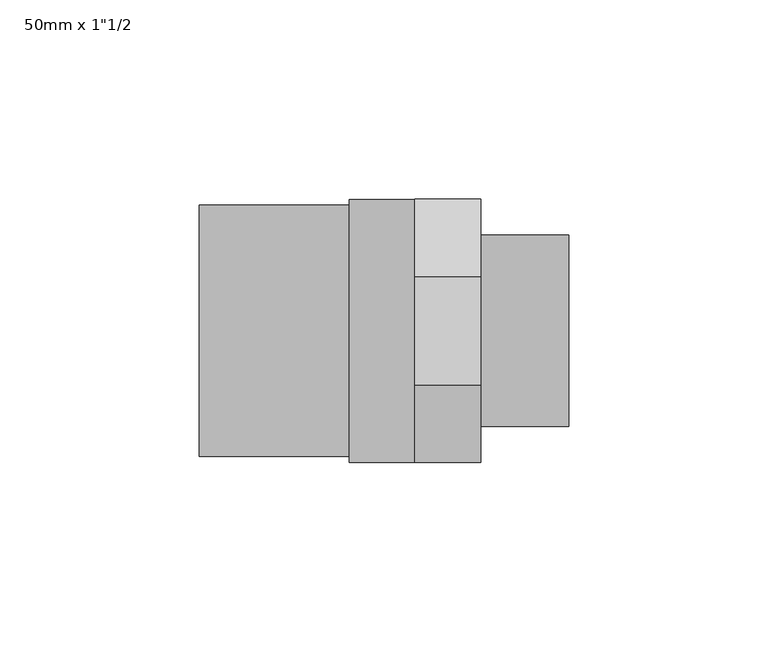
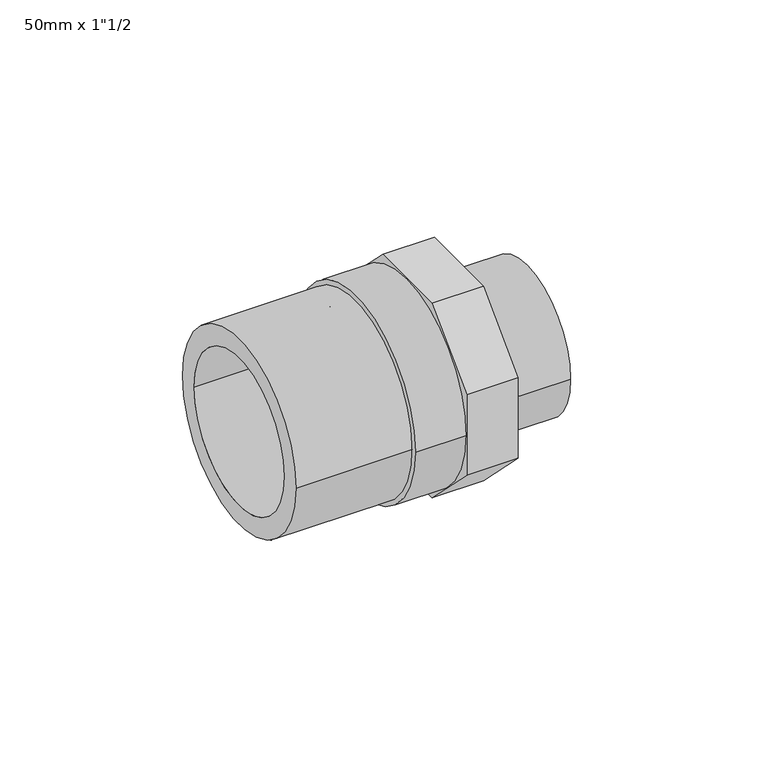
"""IFC4 building model written with IfcOpenShell, lengths in millimetres: pipe fitting geometry."""

from ifc_helpers import new_model, si_unit, point, frame, origin, origin_2d, place, context, project, spatial, polyline, circle_curve, trimmed, segment, composite_curve, outline, extrude, source, transform, mapped, element, save


def pipe_fitting_18db0e3b(model_context):
    return source(origin(), model_context, "Body", "SweptSolid", [
        extrude(outline(composite_curve([segment(trimmed(circle_curve(origin_2d(), 24.0), [point((-24.0, 0.0))], [point((24.0, 0.0))], False, "CARTESIAN"), True, "CONTINUOUS"), segment(trimmed(circle_curve(origin_2d(), 24.0), [point((24.0, 0.0))], [point((-24.0, 0.0))], False, "CARTESIAN"), True, "CONTINUOUS")], self_intersect=False), holes=[composite_curve([segment(trimmed(circle_curve(origin_2d(), 19.5), [point((-19.5, 0.0))], [point((19.5, 0.0))], True, "CARTESIAN"), True, "CONTINUOUS"), segment(trimmed(circle_curve(origin_2d(), 19.5), [point((19.5, 0.0))], [point((-19.5, 0.0))], True, "CARTESIAN"), True, "CONTINUOUS")], self_intersect=False)]), frame((24.25, 0.0, 0.0), z_axis=(1.0, 0.0, 0.0), x_axis=(0.0, 1.0, 0.0)), (0.0, 0.0, 1.0), 22.0),
        extrude(outline(polyline([(13.6690476, 33.0), (33.0, 13.6690476), (33.0, -13.6690476), (13.6690476, -33.0), (-13.6690476, -33.0), (-33.0, -13.6690476), (-33.0, 13.6690476), (-13.6690476, 33.0), (13.6690476, 33.0)]), holes=[composite_curve([segment(trimmed(circle_curve(origin_2d(), 19.5), [point((-19.5, 0.0))], [point((19.5, 0.0))], True, "CARTESIAN"), True, "CONTINUOUS"), segment(trimmed(circle_curve(origin_2d(), 19.5), [point((19.5, 0.0))], [point((-19.5, 0.0))], True, "CARTESIAN"), True, "CONTINUOUS")], self_intersect=False)]), frame((7.75, 0.0, 0.0), z_axis=(1.0, 0.0, 0.0), x_axis=(0.0, 1.0, 0.0)), (0.0, 0.0, 1.0), 16.5),
        extrude(outline(composite_curve([segment(trimmed(circle_curve(origin_2d(), 33.0), [point((-33.0, 0.0))], [point((33.0, 0.0))], False, "CARTESIAN"), True, "CONTINUOUS"), segment(trimmed(circle_curve(origin_2d(), 33.0), [point((33.0, 0.0))], [point((-33.0, 0.0))], False, "CARTESIAN"), True, "CONTINUOUS")], self_intersect=False), holes=[composite_curve([segment(trimmed(circle_curve(origin_2d(), 19.5), [point((-19.5, 0.0))], [point((19.5, 0.0))], True, "CARTESIAN"), True, "CONTINUOUS"), segment(trimmed(circle_curve(origin_2d(), 19.5), [point((19.5, 0.0))], [point((-19.5, 0.0))], True, "CARTESIAN"), True, "CONTINUOUS")], self_intersect=False)]), frame((-8.75, 0.0, 0.0), z_axis=(1.0, 0.0, 0.0), x_axis=(0.0, 1.0, 0.0)), (0.0, 0.0, 1.0), 16.5),
        extrude(outline(composite_curve([segment(trimmed(circle_curve(origin_2d(), 31.5), [point((-31.5, 0.0))], [point((31.5, 0.0))], False, "CARTESIAN"), True, "CONTINUOUS"), segment(trimmed(circle_curve(origin_2d(), 31.5), [point((31.5, 0.0))], [point((-31.5, 0.0))], False, "CARTESIAN"), True, "CONTINUOUS")], self_intersect=False), holes=[composite_curve([segment(trimmed(circle_curve(origin_2d(), 25.0), [point((-25.0, 0.0))], [point((25.0, 0.0))], True, "CARTESIAN"), True, "CONTINUOUS"), segment(trimmed(circle_curve(origin_2d(), 25.0), [point((25.0, 0.0))], [point((-25.0, 0.0))], True, "CARTESIAN"), True, "CONTINUOUS")], self_intersect=False)]), frame((-46.25, 0.0, 0.0), z_axis=(1.0, 0.0, 0.0), x_axis=(0.0, 1.0, 0.0)), (0.0, 0.0, 1.0), 37.5),
    ])


if __name__ == "__main__":
    model = new_model("IFC4")
    model_context = context("Model", 3, world=origin())
    ifc_project = project(units=[si_unit("LENGTHUNIT", "METRE", prefix="MILLI")], contexts=[model_context])
    site = spatial("IfcSite", under=ifc_project)
    building = spatial("IfcBuilding", under=site)
    placement = place(None, origin())
    pipe_fitting_shape = pipe_fitting_18db0e3b(model_context)
    element("IfcPipeFitting", 1, ObjectType="PipeFitting_HTA_CPVC_AdaptorNipplesA : 50mm x 1\"1/2", at=placement, inside=building, context=model_context, shape_type="MappedRepresentation", body=[
        mapped(pipe_fitting_shape, transform((0.0, 0.0, 0.0), x_axis=(1.0, 0.0, 0.0), y_axis=(0.0, 1.0, 0.0), z_axis=(0.0, 0.0, 1.0))),
    ])
    save(model, "model.ifc")
